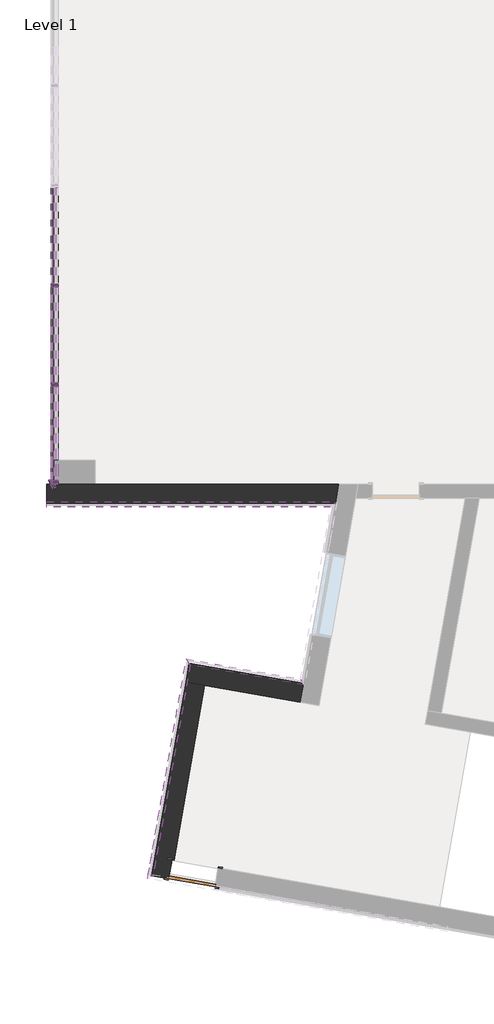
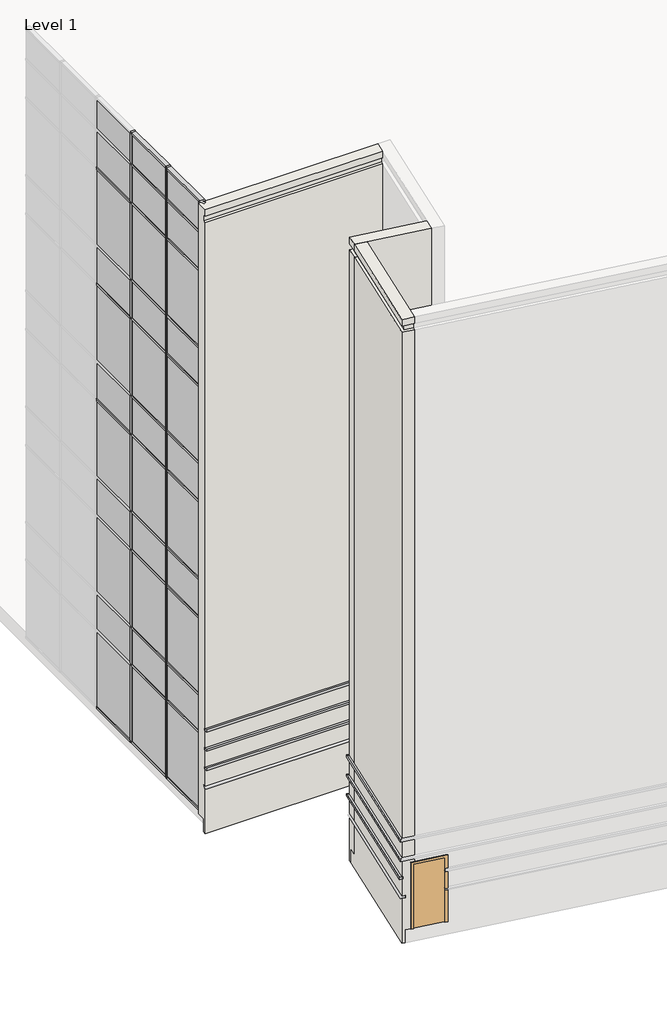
# One storey, part 1 of 23: 46 members, 33 plates, 9 proxies, 3 walls, 1 door.
"""IFC4 building model written with IfcOpenShell, lengths in millimetres."""

from ifc_helpers import new_model, si_unit, frame, origin, place, context, project, spatial, polyline, outline, extrude, faceted_brep, transform, mapped, element, save
from components import door_f5d74769, member_f92b8aa2, member_810865a4, member_6d5c3e5e, member_9764dd38, member_c3fe432b, member_04775634, member_94bcc3e5, member_919c0065, member_6ebc2d4b, system_panel_glazed_14c75400, system_panel_glazed_071f0d51, system_panel_solid_5dfe6f83, system_panel_solid_e25e2004, system_panel_solid_b7551183, system_panel_solid_9a748515, system_panel_solid_d58521b3, system_panel_solid_1f8ff86e

model = new_model("IFC4")

# Units and contexts
model_context = context("Model", 3, world=origin())
ifc_project = project(units=[si_unit("LENGTHUNIT", "METRE", prefix="MILLI")], contexts=[model_context])

# Site, building, storey
site = spatial("IfcSite", under=ifc_project)
building = spatial("IfcBuilding", under=site)
storey = spatial("IfcBuildingStorey", under=building, Name="Level 1", Elevation=0.0)

# Proxies
placement = place(None, origin())
element("IfcBuildingElementProxy", 1, Name="Reveals", at=placement, inside=storey, context=model_context, shape_type="SweptSolid", body=[
    extrude(outline(polyline([(-64209.7895211, -31309.2809359), (-64135.1020032, -31415.9457657), (-66236.287825, -31045.4500138), (-66310.9753429, -30938.785184), (-64209.7895211, -31309.2809359)])), frame((0.0, 0.0, 1625.6), z_axis=(0.0, 0.0, 1.0), x_axis=(1.0, 0.0, 0.0)), (0.0, 0.0, 1.0), 67.7333333),
])
element("IfcBuildingElementProxy", 2, Name="Reveals", at=placement, inside=storey, context=model_context, shape_type="SweptSolid", body=[
    extrude(outline(polyline([(-64209.7895211, -31309.2809359), (-64135.1020032, -31415.9457657), (-66236.287825, -31045.4500138), (-66310.9753429, -30938.785184), (-64209.7895211, -31309.2809359)])), frame((0.0, 0.0, 2235.2), z_axis=(0.0, 0.0, 1.0), x_axis=(1.0, 0.0, 0.0)), (0.0, 0.0, 1.0), 67.7333333),
])
element("IfcBuildingElementProxy", 3, Name="Reveals", at=placement, inside=storey, context=model_context, shape_type="SweptSolid", body=[
    extrude(outline(polyline([(-64209.7895211, -31309.2809359), (-64135.1020032, -31415.9457657), (-66236.287825, -31045.4500138), (-66310.9753429, -30938.785184), (-64209.7895211, -31309.2809359)])), frame((0.0, 0.0, 2844.8), z_axis=(0.0, 0.0, 1.0), x_axis=(1.0, 0.0, 0.0)), (0.0, 0.0, 1.0), 67.7333333),
])
element("IfcBuildingElementProxy", 4, Name="Reveals", at=placement, inside=storey, context=model_context, shape_type="SweptSolid", body=[
    extrude(outline(polyline([(-66310.9753429, -30938.785184), (-66236.287825, -31045.4500138), (-66919.9407005, -34922.6381374), (-67010.6168744, -34906.6494815), (-66310.9753429, -30938.785184)])), frame((0.0, 0.0, 1625.6), z_axis=(0.0, 0.0, 1.0), x_axis=(1.0, 0.0, 0.0)), (0.0, 0.0, 1.0), 67.7333333),
])
element("IfcBuildingElementProxy", 5, Name="Reveals", at=placement, inside=storey, context=model_context, shape_type="SweptSolid", body=[
    extrude(outline(polyline([(-66310.9753429, -30938.785184), (-66236.287825, -31045.4500138), (-66915.5300368, -34897.6240205), (-67022.1948666, -34972.3115384), (-66310.9753429, -30938.785184)])), frame((0.0, 0.0, 2235.2), z_axis=(0.0, 0.0, 1.0), x_axis=(1.0, 0.0, 0.0)), (0.0, 0.0, 1.0), 67.7333333),
])
element("IfcBuildingElementProxy", 6, Name="Reveals", at=placement, inside=storey, context=model_context, shape_type="SweptSolid", body=[
    extrude(outline(polyline([(-66310.9753429, -30938.785184), (-66236.287825, -31045.4500138), (-66915.5300368, -34897.6240205), (-67022.1948666, -34972.3115384), (-66310.9753429, -30938.785184)])), frame((0.0, 0.0, 2844.8), z_axis=(0.0, 0.0, 1.0), x_axis=(1.0, 0.0, 0.0)), (0.0, 0.0, 1.0), 67.7333333),
])
element("IfcBuildingElementProxy", 7, Name="Reveals", at=placement, inside=storey, context=model_context, shape_type="SweptSolid", body=[
    extrude(outline(polyline([(-63542.7957974, -28056.8103492), (-63652.5265095, -28148.8853492), (-68878.5489105, -28148.8853492), (-68878.5489105, -28056.8103492), (-63542.7957974, -28056.8103492)])), frame((0.0, 0.0, 1625.6), z_axis=(0.0, 0.0, 1.0), x_axis=(1.0, 0.0, 0.0)), (0.0, 0.0, 1.0), 67.7333333),
])
element("IfcBuildingElementProxy", 8, Name="Reveals", at=placement, inside=storey, context=model_context, shape_type="SweptSolid", body=[
    extrude(outline(polyline([(-63542.7957974, -28056.8103492), (-63652.5265095, -28148.8853492), (-68878.5489105, -28148.8853492), (-68878.5489105, -28056.8103492), (-63542.7957974, -28056.8103492)])), frame((0.0, 0.0, 2235.2), z_axis=(0.0, 0.0, 1.0), x_axis=(1.0, 0.0, 0.0)), (0.0, 0.0, 1.0), 67.7333333),
])
element("IfcBuildingElementProxy", 9, Name="Reveals", at=placement, inside=storey, context=model_context, shape_type="SweptSolid", body=[
    extrude(outline(polyline([(-63542.7957974, -28056.8103492), (-63652.5265095, -28148.8853492), (-68878.5489105, -28148.8853492), (-68878.5489105, -28056.8103492), (-63542.7957974, -28056.8103492)])), frame((0.0, 0.0, 2844.8), z_axis=(0.0, 0.0, 1.0), x_axis=(1.0, 0.0, 0.0)), (0.0, 0.0, 1.0), 67.7333333),
])

# Door
door_shape = door_f5d74769(model_context)
element("IfcDoor", 10, ObjectType="Single-Flush : 34\" x 80\"", at=placement, inside=storey, context=model_context, shape_type="MappedRepresentation", body=[
    mapped(door_shape, transform((-66179.5661532, -34874.2552841, 0.0), x_axis=(-0.9848077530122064, 0.17364817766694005, 0.0), y_axis=(-0.17364817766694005, -0.9848077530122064, 0.0), z_axis=(0.0, 0.0, 1.0))),
])

# Members
member_shape = member_f92b8aa2(model_context)
element("IfcMember", 11, ObjectType="Rectangular Mullion : 2.5\" x 5\" rectangular", at=placement, inside=storey, context=model_context, shape_type="MappedRepresentation", body=[
    mapped(member_shape, transform((-68724.2599961, -25900.9853492, 18288.0), x_axis=(0.0, 1.0, 0.0), y_axis=(1.0, 0.0, 0.0), z_axis=(0.0, 0.0, -1.0))),
])
element("IfcMember", 12, ObjectType="Rectangular Mullion : 2.5\" x 5\" rectangular", at=placement, inside=storey, context=model_context, shape_type="MappedRepresentation", body=[
    mapped(member_shape, transform((-68724.2599961, -24072.1853492, 18288.0), x_axis=(0.0, 1.0, 0.0), y_axis=(1.0, 0.0, 0.0), z_axis=(0.0, 0.0, -1.0))),
])
member_2_shape = member_810865a4(model_context)
element("IfcMember", 13, ObjectType="Rectangular Mullion : 2.5\" x 5\" rectangular", at=placement, inside=storey, context=model_context, shape_type="MappedRepresentation", body=[
    mapped(member_2_shape, transform((-68724.2599961, -25900.9853492, 3657.6), x_axis=(0.0, 1.0, 0.0), y_axis=(1.0, 0.0, 0.0), z_axis=(0.0, 0.0, -1.0))),
])
element("IfcMember", 14, ObjectType="Rectangular Mullion : 2.5\" x 5\" rectangular", at=placement, inside=storey, context=model_context, shape_type="MappedRepresentation", body=[
    mapped(member_2_shape, transform((-68724.2599961, -24072.1853492, 3657.6), x_axis=(0.0, 1.0, 0.0), y_axis=(1.0, 0.0, 0.0), z_axis=(0.0, 0.0, -1.0))),
])
element("IfcMember", 15, ObjectType="Rectangular Mullion : 2.5\" x 5\" rectangular", at=placement, inside=storey, context=model_context, shape_type="MappedRepresentation", body=[
    mapped(member_2_shape, transform((-68724.2599961, -25900.9853492, 7315.2), x_axis=(0.0, 1.0, 0.0), y_axis=(1.0, 0.0, 0.0), z_axis=(0.0, 0.0, -1.0))),
])
element("IfcMember", 16, ObjectType="Rectangular Mullion : 2.5\" x 5\" rectangular", at=placement, inside=storey, context=model_context, shape_type="MappedRepresentation", body=[
    mapped(member_2_shape, transform((-68724.2599961, -24072.1853492, 7315.2), x_axis=(0.0, 1.0, 0.0), y_axis=(1.0, 0.0, 0.0), z_axis=(0.0, 0.0, -1.0))),
])
element("IfcMember", 17, ObjectType="Rectangular Mullion : 2.5\" x 5\" rectangular", at=placement, inside=storey, context=model_context, shape_type="MappedRepresentation", body=[
    mapped(member_2_shape, transform((-68724.2599961, -25900.9853492, 10972.8), x_axis=(0.0, 1.0, 0.0), y_axis=(1.0, 0.0, 0.0), z_axis=(0.0, 0.0, -1.0))),
])
element("IfcMember", 18, ObjectType="Rectangular Mullion : 2.5\" x 5\" rectangular", at=placement, inside=storey, context=model_context, shape_type="MappedRepresentation", body=[
    mapped(member_2_shape, transform((-68724.2599961, -24072.1853492, 10972.8), x_axis=(0.0, 1.0, 0.0), y_axis=(1.0, 0.0, 0.0), z_axis=(0.0, 0.0, -1.0))),
])
element("IfcMember", 19, ObjectType="Rectangular Mullion : 2.5\" x 5\" rectangular", at=placement, inside=storey, context=model_context, shape_type="MappedRepresentation", body=[
    mapped(member_2_shape, transform((-68724.2599961, -25900.9853492, 14630.4), x_axis=(0.0, 1.0, 0.0), y_axis=(1.0, 0.0, 0.0), z_axis=(0.0, 0.0, -1.0))),
])
element("IfcMember", 20, ObjectType="Rectangular Mullion : 2.5\" x 5\" rectangular", at=placement, inside=storey, context=model_context, shape_type="MappedRepresentation", body=[
    mapped(member_2_shape, transform((-68724.2599961, -24072.1853492, 14630.4), x_axis=(0.0, 1.0, 0.0), y_axis=(1.0, 0.0, 0.0), z_axis=(0.0, 0.0, -1.0))),
])
member_3_shape = member_6d5c3e5e(model_context)
element("IfcMember", 21, ObjectType="Rectangular Mullion : 2.5\" x 5\" rectangular", at=placement, inside=storey, context=model_context, shape_type="MappedRepresentation", body=[
    mapped(member_3_shape, transform((-68724.2599961, -24103.9353492, 19304.0), x_axis=(0.0, 0.0, 1.0), y_axis=(1.0, 0.0, 0.0), z_axis=(0.0, 1.0, 0.0))),
])
member_4_shape = member_9764dd38(model_context)
element("IfcMember", 22, ObjectType="Rectangular Mullion : 2.5\" x 5\" rectangular", at=placement, inside=storey, context=model_context, shape_type="MappedRepresentation", body=[
    mapped(member_4_shape, transform((-68724.2599961, -22275.1353492, 17068.8), x_axis=(0.0, 0.0, 1.0), y_axis=(1.0, 0.0, 0.0), z_axis=(0.0, 1.0, 0.0))),
])
element("IfcMember", 23, ObjectType="Rectangular Mullion : 2.5\" x 5\" rectangular", at=placement, inside=storey, context=model_context, shape_type="MappedRepresentation", body=[
    mapped(member_4_shape, transform((-68724.2599961, -24103.9353492, 17068.8), x_axis=(0.0, 0.0, 1.0), y_axis=(1.0, 0.0, 0.0), z_axis=(0.0, 1.0, 0.0))),
])
element("IfcMember", 24, ObjectType="Rectangular Mullion : 2.5\" x 5\" rectangular", at=placement, inside=storey, context=model_context, shape_type="MappedRepresentation", body=[
    mapped(member_4_shape, transform((-68724.2599961, -22275.1353492, 13411.2), x_axis=(0.0, 0.0, 1.0), y_axis=(1.0, 0.0, 0.0), z_axis=(0.0, 1.0, 0.0))),
])
element("IfcMember", 25, ObjectType="Rectangular Mullion : 2.5\" x 5\" rectangular", at=placement, inside=storey, context=model_context, shape_type="MappedRepresentation", body=[
    mapped(member_4_shape, transform((-68724.2599961, -24103.9353492, 13411.2), x_axis=(0.0, 0.0, 1.0), y_axis=(1.0, 0.0, 0.0), z_axis=(0.0, 1.0, 0.0))),
])
element("IfcMember", 26, ObjectType="Rectangular Mullion : 2.5\" x 5\" rectangular", at=placement, inside=storey, context=model_context, shape_type="MappedRepresentation", body=[
    mapped(member_4_shape, transform((-68724.2599961, -22275.1353492, 9753.6), x_axis=(0.0, 0.0, 1.0), y_axis=(1.0, 0.0, 0.0), z_axis=(0.0, 1.0, 0.0))),
])
element("IfcMember", 27, ObjectType="Rectangular Mullion : 2.5\" x 5\" rectangular", at=placement, inside=storey, context=model_context, shape_type="MappedRepresentation", body=[
    mapped(member_4_shape, transform((-68724.2599961, -24103.9353492, 9753.6), x_axis=(0.0, 0.0, 1.0), y_axis=(1.0, 0.0, 0.0), z_axis=(0.0, 1.0, 0.0))),
])
element("IfcMember", 28, ObjectType="Rectangular Mullion : 2.5\" x 5\" rectangular", at=placement, inside=storey, context=model_context, shape_type="MappedRepresentation", body=[
    mapped(member_4_shape, transform((-68724.2599961, -24103.9353492, 6096.0), x_axis=(0.0, 0.0, 1.0), y_axis=(1.0, 0.0, 0.0), z_axis=(0.0, 1.0, 0.0))),
])
element("IfcMember", 29, ObjectType="Rectangular Mullion : 2.5\" x 5\" rectangular", at=placement, inside=storey, context=model_context, shape_type="MappedRepresentation", body=[
    mapped(member_4_shape, transform((-68724.2599961, -24103.9353492, 2470.15), x_axis=(0.0, 0.0, 1.0), y_axis=(1.0, 0.0, 0.0), z_axis=(0.0, 1.0, 0.0))),
])
element("IfcMember", 30, ObjectType="Rectangular Mullion : 2.5\" x 5\" rectangular", at=placement, inside=storey, context=model_context, shape_type="MappedRepresentation", body=[
    mapped(member_2_shape, transform((-68724.2599961, -25900.9853492, 0.0), x_axis=(0.0, 1.0, 0.0), y_axis=(1.0, 0.0, 0.0), z_axis=(0.0, 0.0, -1.0))),
])
element("IfcMember", 31, ObjectType="Rectangular Mullion : 2.5\" x 5\" rectangular", at=placement, inside=storey, context=model_context, shape_type="MappedRepresentation", body=[
    mapped(member_2_shape, transform((-68724.2599961, -24072.1853492, 0.0), x_axis=(0.0, 1.0, 0.0), y_axis=(1.0, 0.0, 0.0), z_axis=(0.0, 0.0, -1.0))),
])
member_5_shape = member_c3fe432b(model_context)
element("IfcMember", 32, ObjectType="Rectangular Mullion : 2.5\" x 5\" rectangular", at=placement, inside=storey, context=model_context, shape_type="MappedRepresentation", body=[
    mapped(member_5_shape, transform((-68724.2599961, -25932.7353492, 17068.8), x_axis=(0.0, 0.0, 1.0), y_axis=(1.0, 0.0, 0.0), z_axis=(0.0, 1.0, 0.0))),
])
element("IfcMember", 33, ObjectType="Rectangular Mullion : 2.5\" x 5\" rectangular", at=placement, inside=storey, context=model_context, shape_type="MappedRepresentation", body=[
    mapped(member_5_shape, transform((-68724.2599961, -25932.7353492, 13411.2), x_axis=(0.0, 0.0, 1.0), y_axis=(1.0, 0.0, 0.0), z_axis=(0.0, 1.0, 0.0))),
])
element("IfcMember", 34, ObjectType="Rectangular Mullion : 2.5\" x 5\" rectangular", at=placement, inside=storey, context=model_context, shape_type="MappedRepresentation", body=[
    mapped(member_5_shape, transform((-68724.2599961, -25932.7353492, 9753.6), x_axis=(0.0, 0.0, 1.0), y_axis=(1.0, 0.0, 0.0), z_axis=(0.0, 1.0, 0.0))),
])
element("IfcMember", 35, ObjectType="Rectangular Mullion : 2.5\" x 5\" rectangular", at=placement, inside=storey, context=model_context, shape_type="MappedRepresentation", body=[
    mapped(member_5_shape, transform((-68724.2599961, -25932.7353492, 6096.0), x_axis=(0.0, 0.0, 1.0), y_axis=(1.0, 0.0, 0.0), z_axis=(0.0, 1.0, 0.0))),
])
element("IfcMember", 36, ObjectType="Rectangular Mullion : 2.5\" x 5\" rectangular", at=placement, inside=storey, context=model_context, shape_type="MappedRepresentation", body=[
    mapped(member_5_shape, transform((-68724.2599961, -25932.7353492, 2470.15), x_axis=(0.0, 0.0, 1.0), y_axis=(1.0, 0.0, 0.0), z_axis=(0.0, 1.0, 0.0))),
])
member_6_shape = member_04775634(model_context)
element("IfcMember", 37, ObjectType="Rectangular Mullion : 2.5\" x 5\" rectangular", at=placement, inside=storey, context=model_context, shape_type="MappedRepresentation", body=[
    mapped(member_6_shape, transform((-68724.2599961, -25932.7353492, 19304.0), x_axis=(0.0, 0.0, 1.0), y_axis=(1.0, 0.0, 0.0), z_axis=(0.0, 1.0, 0.0))),
])
element("IfcMember", 38, ObjectType="Rectangular Mullion : 2.5\" x 5\" rectangular", at=placement, inside=storey, context=model_context, shape_type="MappedRepresentation", body=[
    mapped(member_3_shape, transform((-68724.2599961, -25869.2353492, 0.0), x_axis=(0.0, 0.0, -1.0), y_axis=(1.0, 0.0, 0.0), z_axis=(0.0, -1.0, 0.0))),
])
element("IfcMember", 39, ObjectType="Rectangular Mullion : 2.5\" x 5\" rectangular", at=placement, inside=storey, context=model_context, shape_type="MappedRepresentation", body=[
    mapped(member_3_shape, transform((-68724.2599961, -24040.4353492, 0.0), x_axis=(0.0, 0.0, -1.0), y_axis=(1.0, 0.0, 0.0), z_axis=(0.0, -1.0, 0.0))),
])
element("IfcMember", 40, ObjectType="Rectangular Mullion : 2.5\" x 5\" rectangular", at=placement, inside=storey, context=model_context, shape_type="MappedRepresentation", body=[
    mapped(member_6_shape, transform((-68724.2599961, -27657.2624681, 0.0), x_axis=(0.0, 0.0, -1.0), y_axis=(1.0, 0.0, 0.0), z_axis=(0.0, -1.0, 0.0))),
])
element("IfcMember", 41, ObjectType="Rectangular Mullion : 2.5\" x 5\" rectangular", at=placement, inside=storey, context=model_context, shape_type="MappedRepresentation", body=[
    mapped(member_4_shape, transform((-68724.2599961, -24103.9353492, 3657.6), x_axis=(0.0, 0.0, 1.0), y_axis=(1.0, 0.0, 0.0), z_axis=(0.0, 1.0, 0.0))),
])
element("IfcMember", 42, ObjectType="Rectangular Mullion : 2.5\" x 5\" rectangular", at=placement, inside=storey, context=model_context, shape_type="MappedRepresentation", body=[
    mapped(member_4_shape, transform((-68724.2599961, -24103.9353492, 7315.2), x_axis=(0.0, 0.0, 1.0), y_axis=(1.0, 0.0, 0.0), z_axis=(0.0, 1.0, 0.0))),
])
element("IfcMember", 43, ObjectType="Rectangular Mullion : 2.5\" x 5\" rectangular", at=placement, inside=storey, context=model_context, shape_type="MappedRepresentation", body=[
    mapped(member_4_shape, transform((-68724.2599961, -24103.9353492, 10972.8), x_axis=(0.0, 0.0, 1.0), y_axis=(1.0, 0.0, 0.0), z_axis=(0.0, 1.0, 0.0))),
])
element("IfcMember", 44, ObjectType="Rectangular Mullion : 2.5\" x 5\" rectangular", at=placement, inside=storey, context=model_context, shape_type="MappedRepresentation", body=[
    mapped(member_4_shape, transform((-68724.2599961, -24103.9353492, 14630.4), x_axis=(0.0, 0.0, 1.0), y_axis=(1.0, 0.0, 0.0), z_axis=(0.0, 1.0, 0.0))),
])
element("IfcMember", 45, ObjectType="Rectangular Mullion : 2.5\" x 5\" rectangular", at=placement, inside=storey, context=model_context, shape_type="MappedRepresentation", body=[
    mapped(member_4_shape, transform((-68724.2599961, -24103.9353492, 18288.0), x_axis=(0.0, 0.0, 1.0), y_axis=(1.0, 0.0, 0.0), z_axis=(0.0, 1.0, 0.0))),
])
member_7_shape = member_94bcc3e5(model_context)
element("IfcMember", 46, ObjectType="Rectangular Mullion : 2.5\" x 5\" rectangular", at=placement, inside=storey, context=model_context, shape_type="MappedRepresentation", body=[
    mapped(member_7_shape, transform((-68724.2599961, -25932.7353492, 3657.6), x_axis=(0.0, 0.0, 1.0), y_axis=(1.0, 0.0, 0.0), z_axis=(0.0, 1.0, 0.0))),
])
element("IfcMember", 47, ObjectType="Rectangular Mullion : 2.5\" x 5\" rectangular", at=placement, inside=storey, context=model_context, shape_type="MappedRepresentation", body=[
    mapped(member_7_shape, transform((-68724.2599961, -25932.7353492, 7315.2), x_axis=(0.0, 0.0, 1.0), y_axis=(1.0, 0.0, 0.0), z_axis=(0.0, 1.0, 0.0))),
])
element("IfcMember", 48, ObjectType="Rectangular Mullion : 2.5\" x 5\" rectangular", at=placement, inside=storey, context=model_context, shape_type="MappedRepresentation", body=[
    mapped(member_7_shape, transform((-68724.2599961, -25932.7353492, 10972.8), x_axis=(0.0, 0.0, 1.0), y_axis=(1.0, 0.0, 0.0), z_axis=(0.0, 1.0, 0.0))),
])
element("IfcMember", 49, ObjectType="Rectangular Mullion : 2.5\" x 5\" rectangular", at=placement, inside=storey, context=model_context, shape_type="MappedRepresentation", body=[
    mapped(member_7_shape, transform((-68724.2599961, -25932.7353492, 14630.4), x_axis=(0.0, 0.0, 1.0), y_axis=(1.0, 0.0, 0.0), z_axis=(0.0, 1.0, 0.0))),
])
element("IfcMember", 50, ObjectType="Rectangular Mullion : 2.5\" x 5\" rectangular", at=placement, inside=storey, context=model_context, shape_type="MappedRepresentation", body=[
    mapped(member_7_shape, transform((-68724.2599961, -25932.7353492, 18288.0), x_axis=(0.0, 0.0, 1.0), y_axis=(1.0, 0.0, 0.0), z_axis=(0.0, 1.0, 0.0))),
])
member_8_shape = member_919c0065(model_context)
element("IfcMember", 51, ObjectType="V Corner Mullion : 5\" V Corner", at=placement, inside=storey, context=model_context, shape_type="MappedRepresentation", body=[
    mapped(member_8_shape, transform((-68724.2599961, -27729.7853492, 19304.0), x_axis=(0.0, -1.0, 0.0), y_axis=(1.0, 0.0, 0.0), z_axis=(0.0, 0.0, 1.0))),
])
member_9_shape = member_6ebc2d4b(model_context)
element("IfcMember", 52, ObjectType="V Corner Mullion : 5\" V Corner", at=placement, inside=storey, context=model_context, shape_type="MappedRepresentation", body=[
    mapped(member_9_shape, transform((-68724.2599961, -27729.7853492, 7315.2), x_axis=(0.0, -1.0, 0.0), y_axis=(1.0, 0.0, 0.0), z_axis=(0.0, 0.0, 1.0))),
])
element("IfcMember", 53, ObjectType="V Corner Mullion : 5\" V Corner", at=placement, inside=storey, context=model_context, shape_type="MappedRepresentation", body=[
    mapped(member_9_shape, transform((-68724.2599961, -27729.7853492, 10972.8), x_axis=(0.0, -1.0, 0.0), y_axis=(1.0, 0.0, 0.0), z_axis=(0.0, 0.0, 1.0))),
])
element("IfcMember", 54, ObjectType="V Corner Mullion : 5\" V Corner", at=placement, inside=storey, context=model_context, shape_type="MappedRepresentation", body=[
    mapped(member_9_shape, transform((-68724.2599961, -27729.7853492, 14630.4), x_axis=(0.0, -1.0, 0.0), y_axis=(1.0, 0.0, 0.0), z_axis=(0.0, 0.0, 1.0))),
])
element("IfcMember", 55, ObjectType="V Corner Mullion : 5\" V Corner", at=placement, inside=storey, context=model_context, shape_type="MappedRepresentation", body=[
    mapped(member_9_shape, transform((-68724.2599961, -27729.7853492, 18288.0), x_axis=(0.0, -1.0, 0.0), y_axis=(1.0, 0.0, 0.0), z_axis=(0.0, 0.0, 1.0))),
])
element("IfcMember", 56, ObjectType="V Corner Mullion : 5\" V Corner", at=placement, inside=storey, context=model_context, shape_type="MappedRepresentation", body=[
    mapped(member_9_shape, transform((-68724.2599961, -27729.7853492, 3657.6), x_axis=(0.0, -1.0, 0.0), y_axis=(1.0, 0.0, 0.0), z_axis=(0.0, 0.0, 1.0))),
])

# Plates
system_panel_glazed_shape = system_panel_glazed_14c75400(model_context)
element("IfcPlate", 57, ObjectType="System Panel : Glazed", at=placement, inside=storey, context=model_context, shape_type="MappedRepresentation", body=[
    mapped(system_panel_glazed_shape, transform((-68724.2599961, -23157.7853492, 14662.15), x_axis=(0.0, 1.0, 0.0), y_axis=(-1.0, 0.0, 0.0), z_axis=(0.0, 0.0, 1.0))),
])
element("IfcPlate", 58, ObjectType="System Panel : Glazed", at=placement, inside=storey, context=model_context, shape_type="MappedRepresentation", body=[
    mapped(system_panel_glazed_shape, transform((-68724.2599961, -24986.5853492, 14662.15), x_axis=(0.0, 1.0, 0.0), y_axis=(-1.0, 0.0, 0.0), z_axis=(0.0, 0.0, 1.0))),
])
element("IfcPlate", 59, ObjectType="System Panel : Glazed", at=placement, inside=storey, context=model_context, shape_type="MappedRepresentation", body=[
    mapped(system_panel_glazed_shape, transform((-68724.2599961, -23157.7853492, 11004.55), x_axis=(0.0, 1.0, 0.0), y_axis=(-1.0, 0.0, 0.0), z_axis=(0.0, 0.0, 1.0))),
])
element("IfcPlate", 60, ObjectType="System Panel : Glazed", at=placement, inside=storey, context=model_context, shape_type="MappedRepresentation", body=[
    mapped(system_panel_glazed_shape, transform((-68724.2599961, -24986.5853492, 11004.55), x_axis=(0.0, 1.0, 0.0), y_axis=(-1.0, 0.0, 0.0), z_axis=(0.0, 0.0, 1.0))),
])
element("IfcPlate", 61, ObjectType="System Panel : Glazed", at=placement, inside=storey, context=model_context, shape_type="MappedRepresentation", body=[
    mapped(system_panel_glazed_shape, transform((-68724.2599961, -23157.7853492, 7346.95), x_axis=(0.0, 1.0, 0.0), y_axis=(-1.0, 0.0, 0.0), z_axis=(0.0, 0.0, 1.0))),
])
element("IfcPlate", 62, ObjectType="System Panel : Glazed", at=placement, inside=storey, context=model_context, shape_type="MappedRepresentation", body=[
    mapped(system_panel_glazed_shape, transform((-68724.2599961, -24986.5853492, 7346.95), x_axis=(0.0, 1.0, 0.0), y_axis=(-1.0, 0.0, 0.0), z_axis=(0.0, 0.0, 1.0))),
])
element("IfcPlate", 63, ObjectType="System Panel : Glazed", at=placement, inside=storey, context=model_context, shape_type="MappedRepresentation", body=[
    mapped(system_panel_glazed_shape, transform((-68724.2599961, -23157.7853492, 3689.35), x_axis=(0.0, 1.0, 0.0), y_axis=(-1.0, 0.0, 0.0), z_axis=(0.0, 0.0, 1.0))),
])
element("IfcPlate", 64, ObjectType="System Panel : Glazed", at=placement, inside=storey, context=model_context, shape_type="MappedRepresentation", body=[
    mapped(system_panel_glazed_shape, transform((-68724.2599961, -24986.5853492, 3689.35), x_axis=(0.0, 1.0, 0.0), y_axis=(-1.0, 0.0, 0.0), z_axis=(0.0, 0.0, 1.0))),
])
element("IfcPlate", 65, ObjectType="System Panel : Glazed", at=placement, inside=storey, context=model_context, shape_type="MappedRepresentation", body=[
    mapped(system_panel_glazed_shape, transform((-68724.2599961, -23157.7853492, 63.5), x_axis=(0.0, 1.0, 0.0), y_axis=(-1.0, 0.0, 0.0), z_axis=(0.0, 0.0, 1.0))),
])
element("IfcPlate", 66, ObjectType="System Panel : Glazed", at=placement, inside=storey, context=model_context, shape_type="MappedRepresentation", body=[
    mapped(system_panel_glazed_shape, transform((-68724.2599961, -24986.5853492, 63.5), x_axis=(0.0, 1.0, 0.0), y_axis=(-1.0, 0.0, 0.0), z_axis=(0.0, 0.0, 1.0))),
])
system_panel_glazed_2_shape = system_panel_glazed_071f0d51(model_context)
element("IfcPlate", 67, ObjectType="System Panel : Glazed", at=placement, inside=storey, context=model_context, shape_type="MappedRepresentation", body=[
    mapped(system_panel_glazed_2_shape, transform((-68724.2599961, -26831.2603492, 14662.15), x_axis=(0.0, 1.0, 0.0), y_axis=(-1.0, 0.0, 0.0), z_axis=(0.0, 0.0, 1.0))),
])
element("IfcPlate", 68, ObjectType="System Panel : Glazed", at=placement, inside=storey, context=model_context, shape_type="MappedRepresentation", body=[
    mapped(system_panel_glazed_2_shape, transform((-68724.2599961, -26831.2603492, 11004.55), x_axis=(0.0, 1.0, 0.0), y_axis=(-1.0, 0.0, 0.0), z_axis=(0.0, 0.0, 1.0))),
])
element("IfcPlate", 69, ObjectType="System Panel : Glazed", at=placement, inside=storey, context=model_context, shape_type="MappedRepresentation", body=[
    mapped(system_panel_glazed_2_shape, transform((-68724.2599961, -26831.2603492, 7346.95), x_axis=(0.0, 1.0, 0.0), y_axis=(-1.0, 0.0, 0.0), z_axis=(0.0, 0.0, 1.0))),
])
element("IfcPlate", 70, ObjectType="System Panel : Glazed", at=placement, inside=storey, context=model_context, shape_type="MappedRepresentation", body=[
    mapped(system_panel_glazed_2_shape, transform((-68724.2599961, -26831.2603492, 3689.35), x_axis=(0.0, 1.0, 0.0), y_axis=(-1.0, 0.0, 0.0), z_axis=(0.0, 0.0, 1.0))),
])
element("IfcPlate", 71, ObjectType="System Panel : Glazed", at=placement, inside=storey, context=model_context, shape_type="MappedRepresentation", body=[
    mapped(system_panel_glazed_2_shape, transform((-68724.2599961, -26831.2603492, 63.5), x_axis=(0.0, 1.0, 0.0), y_axis=(-1.0, 0.0, 0.0), z_axis=(0.0, 0.0, 1.0))),
])
system_panel_solid_shape = system_panel_solid_5dfe6f83(model_context)
element("IfcPlate", 72, ObjectType="System Panel : Solid", at=placement, inside=storey, context=model_context, shape_type="MappedRepresentation", body=[
    mapped(system_panel_solid_shape, transform((-68724.2599961, -24986.5853492, 18319.75), x_axis=(0.0, 1.0, 0.0), y_axis=(-1.0, 0.0, 0.0), z_axis=(0.0, 0.0, 1.0))),
])
element("IfcPlate", 73, ObjectType="System Panel : Solid", at=placement, inside=storey, context=model_context, shape_type="MappedRepresentation", body=[
    mapped(system_panel_solid_shape, transform((-68724.2599961, -23157.7853492, 18319.75), x_axis=(0.0, 1.0, 0.0), y_axis=(-1.0, 0.0, 0.0), z_axis=(0.0, 0.0, 1.0))),
])
system_panel_solid_2_shape = system_panel_solid_e25e2004(model_context)
element("IfcPlate", 74, ObjectType="System Panel : Solid", at=placement, inside=storey, context=model_context, shape_type="MappedRepresentation", body=[
    mapped(system_panel_solid_2_shape, transform((-68724.2599961, -23157.7853492, 17100.55), x_axis=(0.0, 1.0, 0.0), y_axis=(-1.0, 0.0, 0.0), z_axis=(0.0, 0.0, 1.0))),
])
element("IfcPlate", 75, ObjectType="System Panel : Solid", at=placement, inside=storey, context=model_context, shape_type="MappedRepresentation", body=[
    mapped(system_panel_solid_2_shape, transform((-68724.2599961, -24986.5853492, 17100.55), x_axis=(0.0, 1.0, 0.0), y_axis=(-1.0, 0.0, 0.0), z_axis=(0.0, 0.0, 1.0))),
])
element("IfcPlate", 76, ObjectType="System Panel : Solid", at=placement, inside=storey, context=model_context, shape_type="MappedRepresentation", body=[
    mapped(system_panel_solid_2_shape, transform((-68724.2599961, -23157.7853492, 13442.95), x_axis=(0.0, 1.0, 0.0), y_axis=(-1.0, 0.0, 0.0), z_axis=(0.0, 0.0, 1.0))),
])
element("IfcPlate", 77, ObjectType="System Panel : Solid", at=placement, inside=storey, context=model_context, shape_type="MappedRepresentation", body=[
    mapped(system_panel_solid_2_shape, transform((-68724.2599961, -24986.5853492, 13442.95), x_axis=(0.0, 1.0, 0.0), y_axis=(-1.0, 0.0, 0.0), z_axis=(0.0, 0.0, 1.0))),
])
element("IfcPlate", 78, ObjectType="System Panel : Solid", at=placement, inside=storey, context=model_context, shape_type="MappedRepresentation", body=[
    mapped(system_panel_solid_2_shape, transform((-68724.2599961, -23157.7853492, 9785.35), x_axis=(0.0, 1.0, 0.0), y_axis=(-1.0, 0.0, 0.0), z_axis=(0.0, 0.0, 1.0))),
])
element("IfcPlate", 79, ObjectType="System Panel : Solid", at=placement, inside=storey, context=model_context, shape_type="MappedRepresentation", body=[
    mapped(system_panel_solid_2_shape, transform((-68724.2599961, -24986.5853492, 9785.35), x_axis=(0.0, 1.0, 0.0), y_axis=(-1.0, 0.0, 0.0), z_axis=(0.0, 0.0, 1.0))),
])
element("IfcPlate", 80, ObjectType="System Panel : Solid", at=placement, inside=storey, context=model_context, shape_type="MappedRepresentation", body=[
    mapped(system_panel_solid_2_shape, transform((-68724.2599961, -23157.7853492, 6127.75), x_axis=(0.0, 1.0, 0.0), y_axis=(-1.0, 0.0, 0.0), z_axis=(0.0, 0.0, 1.0))),
])
element("IfcPlate", 81, ObjectType="System Panel : Solid", at=placement, inside=storey, context=model_context, shape_type="MappedRepresentation", body=[
    mapped(system_panel_solid_2_shape, transform((-68724.2599961, -24986.5853492, 6127.75), x_axis=(0.0, 1.0, 0.0), y_axis=(-1.0, 0.0, 0.0), z_axis=(0.0, 0.0, 1.0))),
])
system_panel_solid_3_shape = system_panel_solid_b7551183(model_context)
element("IfcPlate", 82, ObjectType="System Panel : Solid", at=placement, inside=storey, context=model_context, shape_type="MappedRepresentation", body=[
    mapped(system_panel_solid_3_shape, transform((-68724.2599961, -23157.7853492, 2501.9), x_axis=(0.0, 1.0, 0.0), y_axis=(-1.0, 0.0, 0.0), z_axis=(0.0, 0.0, 1.0))),
])
element("IfcPlate", 83, ObjectType="System Panel : Solid", at=placement, inside=storey, context=model_context, shape_type="MappedRepresentation", body=[
    mapped(system_panel_solid_3_shape, transform((-68724.2599961, -24986.5853492, 2501.9), x_axis=(0.0, 1.0, 0.0), y_axis=(-1.0, 0.0, 0.0), z_axis=(0.0, 0.0, 1.0))),
])
system_panel_solid_4_shape = system_panel_solid_9a748515(model_context)
element("IfcPlate", 84, ObjectType="System Panel : Solid", at=placement, inside=storey, context=model_context, shape_type="MappedRepresentation", body=[
    mapped(system_panel_solid_4_shape, transform((-68724.2599961, -26794.9989086, 18319.75), x_axis=(0.0, 1.0, 0.0), y_axis=(-1.0, 0.0, 0.0), z_axis=(0.0, 0.0, 1.0))),
])
system_panel_solid_5_shape = system_panel_solid_d58521b3(model_context)
element("IfcPlate", 85, ObjectType="System Panel : Solid", at=placement, inside=storey, context=model_context, shape_type="MappedRepresentation", body=[
    mapped(system_panel_solid_5_shape, transform((-68724.2599961, -26831.2603492, 17100.55), x_axis=(0.0, 1.0, 0.0), y_axis=(-1.0, 0.0, 0.0), z_axis=(0.0, 0.0, 1.0))),
])
element("IfcPlate", 86, ObjectType="System Panel : Solid", at=placement, inside=storey, context=model_context, shape_type="MappedRepresentation", body=[
    mapped(system_panel_solid_5_shape, transform((-68724.2599961, -26831.2603492, 13442.95), x_axis=(0.0, 1.0, 0.0), y_axis=(-1.0, 0.0, 0.0), z_axis=(0.0, 0.0, 1.0))),
])
element("IfcPlate", 87, ObjectType="System Panel : Solid", at=placement, inside=storey, context=model_context, shape_type="MappedRepresentation", body=[
    mapped(system_panel_solid_5_shape, transform((-68724.2599961, -26831.2603492, 9785.35), x_axis=(0.0, 1.0, 0.0), y_axis=(-1.0, 0.0, 0.0), z_axis=(0.0, 0.0, 1.0))),
])
element("IfcPlate", 88, ObjectType="System Panel : Solid", at=placement, inside=storey, context=model_context, shape_type="MappedRepresentation", body=[
    mapped(system_panel_solid_5_shape, transform((-68724.2599961, -26831.2603492, 6127.75), x_axis=(0.0, 1.0, 0.0), y_axis=(-1.0, 0.0, 0.0), z_axis=(0.0, 0.0, 1.0))),
])
system_panel_solid_6_shape = system_panel_solid_1f8ff86e(model_context)
element("IfcPlate", 89, ObjectType="System Panel : Solid", at=placement, inside=storey, context=model_context, shape_type="MappedRepresentation", body=[
    mapped(system_panel_solid_6_shape, transform((-68724.2599961, -26831.2603492, 2501.9), x_axis=(0.0, 1.0, 0.0), y_axis=(-1.0, 0.0, 0.0), z_axis=(0.0, 0.0, 1.0))),
])

# Walls
element("IfcWall", 90, ObjectType="Exterior - Brick and CMU on MTL. Stud", at=placement, inside=storey, context=model_context, shape_type="Brep", body=[
    faceted_brep([(-66256.8912782, -31016.0252332, 19304.0), (-64155.7054564, -31386.5209851, 19304.0), (-64155.7054564, -31386.5209851, 19100.8), (-66256.8912782, -31016.0252332, 19100.8), (-64155.7054564, -31386.5209851, -406.4), (-66256.8912782, -31016.0252332, -406.4), (-66256.8912782, -31016.0252332, 1016.0), (-64155.7054564, -31386.5209851, 1016.0), (-64155.7054564, -31386.5209851, 1693.3333333), (-66256.8912782, -31016.0252332, 1693.3333333), (-66256.8912782, -31016.0252332, 2235.2), (-64155.7054564, -31386.5209851, 2235.2), (-66256.8912782, -31016.0252332, 1625.6), (-64155.7054564, -31386.5209851, 1625.6), (-64155.7054564, -31386.5209851, 1085.85), (-66256.8912782, -31016.0252332, 1085.85), (-64155.7054564, -31386.5209851, 2302.9333333), (-66256.8912782, -31016.0252332, 2302.9333333), (-66256.8912782, -31016.0252332, 2844.8), (-64155.7054564, -31386.5209851, 2844.8), (-64155.7054564, -31386.5209851, 2912.5333333), (-66256.8912782, -31016.0252332, 2912.5333333), (-66256.8912782, -31016.0252332, 18897.6), (-64155.7054564, -31386.5209851, 18897.6), (-66318.0892373, -31363.0961055, 0.0), (-65971.0183649, -31424.2940646, 0.0), (-64216.9034154, -31733.5918574, 0.0), (-64216.9034154, -31733.5918574, 19304.0), (-65971.0183649, -31424.2940646, 19304.0), (-66318.0892373, -31363.0961055, 19304.0), (-66318.0892373, -31363.0961055, 19100.8), (-66227.4130634, -31379.0847615, 19100.8), (-66227.4130634, -31379.0847615, 18897.6), (-66318.0892373, -31363.0961055, 18897.6), (-66318.0892373, -31363.0961055, 2912.5333333), (-66293.0751203, -31367.5067693, 2912.5333333), (-66293.0751203, -31367.5067693, 2844.8), (-66318.0892373, -31363.0961055, 2844.8), (-66318.0892373, -31363.0961055, 2302.9333333), (-66293.0751203, -31367.5067693, 2302.9333333), (-66293.0751203, -31367.5067693, 2235.2), (-66318.0892373, -31363.0961055, 2235.2), (-66318.0892373, -31363.0961055, 1693.3333333), (-66293.0751203, -31367.5067693, 1693.3333333), (-66293.0751203, -31367.5067693, 1625.6), (-66318.0892373, -31363.0961055, 1625.6), (-66318.0892373, -31363.0961055, 1085.85), (-66227.4130634, -31379.0847615, 1085.85), (-66227.4130634, -31379.0847615, 1016.0), (-66318.0892373, -31363.0961055, 1016.0), (-64171.6941124, -31477.1971589, 0.0), (-64171.6941124, -31477.1971589, -406.4), (-64171.6941124, -31477.1971589, 1016.0), (-64171.6941124, -31477.1971589, 1085.85), (-64160.1161201, -31411.535102, 1625.6), (-64160.1161201, -31411.535102, 1693.3333333), (-64160.1161201, -31411.535102, 2235.2), (-64160.1161201, -31411.535102, 2302.9333333), (-64160.1161201, -31411.535102, 2844.8), (-64160.1161201, -31411.535102, 2912.5333333), (-64171.6941124, -31477.1971589, 18897.6), (-64171.6941124, -31477.1971589, 19100.8), (-66272.8799342, -31106.701407, 0.0), (-66272.8799342, -31106.701407, -406.4), (-66182.2037603, -31122.690063, 0.0), (-66236.287825, -31045.4500138, 1693.3333333), (-66236.287825, -31045.4500138, 1625.6), (-66236.287825, -31045.4500138, 2302.9333333), (-66236.287825, -31045.4500138, 2235.2), (-66236.287825, -31045.4500138, 2912.5333333), (-66236.287825, -31045.4500138, 2844.8), (-66182.2037603, -31122.690063, 1085.85), (-66182.2037603, -31122.690063, 1016.0), (-66182.2037603, -31122.690063, 18897.6), (-66182.2037603, -31122.690063, 19100.8), (-66182.2037603, -31122.690063, -406.4)], [[[0, 1, 2, 3]], [[4, 5, 6, 7]], [[8, 9, 10, 11]], [[12, 13, 14, 15]], [[16, 17, 18, 19]], [[20, 21, 22, 23]], [[24, 25, 26, 27, 28, 29, 30, 31, 32, 33, 34, 35, 36, 37, 38, 39, 40, 41, 42, 43, 44, 45, 46, 47, 48, 49]], [[1, 0, 29, 28, 27]], [[1, 27, 26, 50, 51, 4, 7, 52, 53, 14, 13, 54, 55, 8, 11, 56, 57, 16, 19, 58, 59, 20, 23, 60, 61, 2]], [[29, 0, 3, 30]], [[9, 42, 41, 10]], [[45, 12, 15, 46]], [[17, 38, 37, 18]], [[21, 34, 33, 22]], [[62, 24, 49, 6, 5, 63]], [[26, 25, 24, 62, 64, 50]], [[43, 42, 9, 8, 55, 65]], [[45, 44, 66, 54, 13, 12]], [[66, 65, 55, 54]], [[65, 66, 44, 43]], [[39, 38, 17, 16, 57, 67]], [[41, 40, 68, 56, 11, 10]], [[68, 67, 57, 56]], [[67, 68, 40, 39]], [[35, 34, 21, 20, 59, 69]], [[37, 36, 70, 58, 19, 18]], [[70, 69, 59, 58]], [[69, 70, 36, 35]], [[47, 46, 15, 14, 53, 71]], [[49, 48, 72, 52, 7, 6]], [[72, 71, 53, 52]], [[71, 72, 48, 47]], [[32, 73, 60, 23, 22, 33]], [[61, 74, 31, 30, 3, 2]], [[73, 74, 61, 60]], [[74, 73, 32, 31]], [[51, 50, 64, 62, 63, 75]], [[5, 4, 51, 75, 63]]]),
])
element("IfcWall", 91, ObjectType="Exterior - Brick and CMU on MTL. Stud", at=placement, inside=storey, context=model_context, shape_type="Brep", body=[
    faceted_brep([(-66944.9548174, -34918.2274737, 19304.0), (-66318.0892373, -31363.0961055, 19304.0), (-66318.0892373, -31363.0961055, 19100.8), (-66944.9548174, -34918.2274737, 19100.8), (-66318.0892373, -31363.0961055, 1693.3333333), (-66944.9548174, -34918.2274737, 1693.3333333), (-66944.9548174, -34918.2274737, 2235.2), (-66318.0892373, -31363.0961055, 2235.2), (-66944.9548174, -34918.2274737, 1625.6), (-66318.0892373, -31363.0961055, 1625.6), (-66318.0892373, -31363.0961055, 1085.85), (-66944.9548174, -34918.2274737, 1085.85), (-66318.0892373, -31363.0961055, 2302.9333333), (-66944.9548174, -34918.2274737, 2302.9333333), (-66944.9548174, -34918.2274737, 2844.8), (-66318.0892373, -31363.0961055, 2844.8), (-66318.0892373, -31363.0961055, 2912.5333333), (-66944.9548174, -34918.2274737, 2912.5333333), (-66944.9548174, -34918.2274737, 18897.6), (-66318.0892373, -31363.0961055, 18897.6), (-66944.9548174, -34918.2274737, -406.4), (-66944.9548174, -34918.2274737, 1016.0), (-66318.0892373, -31363.0961055, 1016.0), (-66318.0892373, -31363.0961055, 0.0), (-66272.8799342, -31106.701407, 0.0), (-66272.8799342, -31106.701407, -406.4), (-65971.0183649, -31424.2940646, 19304.0), (-66536.6859861, -34632.3545604, 19304.0), (-66597.8839451, -34979.4254327, 19304.0), (-66597.8839451, -34979.4254327, 19100.8), (-66581.8952891, -34888.7492589, 19100.8), (-66581.8952891, -34888.7492589, 18897.6), (-66597.8839451, -34979.4254327, 18897.6), (-66597.8839451, -34979.4254327, 2912.5333333), (-66593.4732814, -34954.4113158, 2912.5333333), (-66593.4732814, -34954.4113158, 2844.8), (-66597.8839451, -34979.4254327, 2844.8), (-66597.8839451, -34979.4254327, 2302.9333333), (-66593.4732814, -34954.4113158, 2302.9333333), (-66593.4732814, -34954.4113158, 2235.2), (-66597.8839451, -34979.4254327, 2235.2), (-66597.8839451, -34979.4254327, 2032.0), (-66536.6859861, -34632.3545604, 2032.0), (-66536.6859861, -34632.3545604, 0.0), (-65971.0183649, -31424.2940646, 0.0), (-66227.4130634, -31379.0847615, 0.0), (-66227.4130634, -31379.0847615, 1016.0), (-66227.4130634, -31379.0847615, 1085.85), (-66293.0751203, -31367.5067693, 1625.6), (-66293.0751203, -31367.5067693, 1693.3333333), (-66293.0751203, -31367.5067693, 2235.2), (-66293.0751203, -31367.5067693, 2302.9333333), (-66293.0751203, -31367.5067693, 2844.8), (-66293.0751203, -31367.5067693, 2912.5333333), (-66227.4130634, -31379.0847615, 18897.6), (-66227.4130634, -31379.0847615, 19100.8), (-66854.2786436, -34934.2161297, -406.4), (-66854.2786436, -34934.2161297, 0.0), (-66635.4051205, -34972.8094372, 0.0), (-66635.4051205, -34972.8094372, 2032.0), (-66919.9407005, -34922.6381374, 1693.3333333), (-66919.9407005, -34922.6381374, 1625.6), (-66854.2786436, -34934.2161297, 1085.85), (-66854.2786436, -34934.2161297, 1016.0), (-66574.2071614, -34625.7385648, 0.0), (-66838.2899876, -34843.5399558, 0.0), (-66915.5300368, -34897.6240205, 2302.9333333), (-66915.5300368, -34897.6240205, 2235.2), (-66915.5300368, -34897.6240205, 2912.5333333), (-66915.5300368, -34897.6240205, 2844.8), (-66838.2899876, -34843.5399558, 18897.6), (-66838.2899876, -34843.5399558, 19100.8), (-66838.2899876, -34843.5399558, -406.4), (-66182.2037603, -31122.690063, -406.4), (-66182.2037603, -31122.690063, 0.0), (-66574.2071614, -34625.7385648, 2032.0)], [[[0, 1, 2, 3]], [[4, 5, 6, 7]], [[8, 9, 10, 11]], [[12, 13, 14, 15]], [[16, 17, 18, 19]], [[20, 21, 22, 23, 24, 25]], [[26, 27, 28, 29, 30, 31, 32, 33, 34, 35, 36, 37, 38, 39, 40, 41, 42, 43, 44]], [[1, 0, 28, 27, 26]], [[1, 26, 44, 45, 23, 22, 46, 47, 10, 9, 48, 49, 4, 7, 50, 51, 12, 15, 52, 53, 16, 19, 54, 55, 2]], [[28, 0, 3, 29]], [[13, 37, 36, 14]], [[17, 33, 32, 18]], [[56, 57, 58, 59, 41, 40, 6, 5, 60, 61, 8, 11, 62, 63, 21, 20]], [[45, 44, 43, 64, 58, 57, 65]], [[4, 49, 60, 5]], [[48, 9, 8, 61]], [[49, 48, 61, 60]], [[38, 37, 13, 12, 51, 66]], [[40, 39, 67, 50, 7, 6]], [[67, 66, 51, 50]], [[66, 67, 39, 38]], [[34, 33, 17, 16, 53, 68]], [[36, 35, 69, 52, 15, 14]], [[69, 68, 53, 52]], [[68, 69, 35, 34]], [[10, 47, 62, 11]], [[46, 22, 21, 63]], [[47, 46, 63, 62]], [[31, 70, 54, 19, 18, 32]], [[55, 71, 30, 29, 3, 2]], [[70, 71, 55, 54]], [[71, 70, 31, 30]], [[45, 65, 57, 56, 72, 73, 74]], [[56, 20, 25, 73, 72]], [[75, 64, 43, 42]], [[64, 75, 59, 58]], [[59, 75, 42, 41]], [[24, 23, 45, 74]], [[73, 25, 24, 74]]]),
])
element("IfcWall", 92, ObjectType="Exterior - Brick and CMU on MTL. Stud", at=placement, inside=storey, context=model_context, shape_type="Brep", body=[
    faceted_brep([(-63510.9243025, -27729.7853492, 0.0), (-68878.5489105, -27729.7853492, 0.0), (-68878.5489105, -27729.7853492, 19304.0), (-68619.7864105, -27729.7853492, 19304.0), (-68426.1114105, -27729.7853492, 19304.0), (-63510.9243025, -27729.7853492, 19304.0), (-63573.0663387, -28082.2103492, 19304.0), (-68878.5489105, -28082.2103492, 19304.0), (-68878.5489105, -28082.2103492, 19100.8), (-63573.0663387, -28082.2103492, 19100.8), (-68878.5489105, -28082.2103492, -406.4), (-63573.0663387, -28082.2103492, -406.4), (-63573.0663387, -28082.2103492, 1016.0), (-68878.5489105, -28082.2103492, 1016.0), (-68878.5489105, -28082.2103492, 2235.2), (-68878.5489105, -28082.2103492, 1693.3333333), (-63573.0663387, -28082.2103492, 1693.3333333), (-63573.0663387, -28082.2103492, 2235.2), (-68878.5489105, -28082.2103492, 2844.8), (-68878.5489105, -28082.2103492, 2302.9333333), (-63573.0663387, -28082.2103492, 2302.9333333), (-63573.0663387, -28082.2103492, 2844.8), (-68878.5489105, -28082.2103492, 1625.6), (-68878.5489105, -28082.2103492, 1085.85), (-63573.0663387, -28082.2103492, 1085.85), (-63573.0663387, -28082.2103492, 1625.6), (-68878.5489105, -28082.2103492, 2912.5333333), (-63573.0663387, -28082.2103492, 2912.5333333), (-63573.0663387, -28082.2103492, 18897.6), (-68878.5489105, -28082.2103492, 18897.6), (-68878.5489105, -27990.1353492, 0.0), (-68878.5489105, -27990.1353492, -406.4), (-68878.5489105, -27990.1353492, 1016.0), (-68878.5489105, -27990.1353492, 1085.85), (-68878.5489105, -28056.8103492, 1625.6), (-68878.5489105, -28056.8103492, 1693.3333333), (-68878.5489105, -28056.8103492, 2235.2), (-68878.5489105, -28056.8103492, 2302.9333333), (-68878.5489105, -28056.8103492, 2844.8), (-68878.5489105, -28056.8103492, 2912.5333333), (-68878.5489105, -27990.1353492, 18897.6), (-68878.5489105, -27990.1353492, 19100.8), (-63556.8310319, -27990.1353492, 0.0), (-63556.8310319, -27990.1353492, -406.4), (-63568.5876334, -28056.8103492, 1625.6), (-63568.5876334, -28056.8103492, 1693.3333333), (-63568.5876334, -28056.8103492, 2235.2), (-63568.5876334, -28056.8103492, 2302.9333333), (-63568.5876334, -28056.8103492, 2844.8), (-63568.5876334, -28056.8103492, 2912.5333333), (-63556.8310319, -27990.1353492, 1016.0), (-63556.8310319, -27990.1353492, 1085.85), (-63556.8310319, -27990.1353492, 18897.6), (-63556.8310319, -27990.1353492, 19100.8)], [[[0, 1, 2, 3, 4, 5]], [[6, 7, 8, 9]], [[10, 11, 12, 13]], [[14, 15, 16, 17]], [[18, 19, 20, 21]], [[22, 23, 24, 25]], [[26, 27, 28, 29]], [[2, 1, 30, 31, 10, 13, 32, 33, 23, 22, 34, 35, 15, 14, 36, 37, 19, 18, 38, 39, 26, 29, 40, 41, 8, 7]], [[5, 4, 3, 2, 7, 6]], [[1, 0, 42, 30]], [[30, 42, 43, 31]], [[43, 11, 10, 31]], [[35, 34, 44, 45]], [[37, 36, 46, 47]], [[39, 38, 48, 49]], [[33, 32, 50, 51]], [[40, 52, 53, 41]], [[35, 45, 16, 15]], [[44, 34, 22, 25]], [[37, 47, 20, 19]], [[46, 36, 14, 17]], [[39, 49, 27, 26]], [[48, 38, 18, 21]], [[33, 51, 24, 23]], [[50, 32, 13, 12]], [[52, 40, 29, 28]], [[41, 53, 9, 8]], [[5, 6, 9, 53, 52, 28, 27, 49, 48, 21, 20, 47, 46, 17, 16, 45, 44, 25, 24, 51, 50, 12, 11, 43, 42, 0]]]),
])

save(model, "model.ifc")
